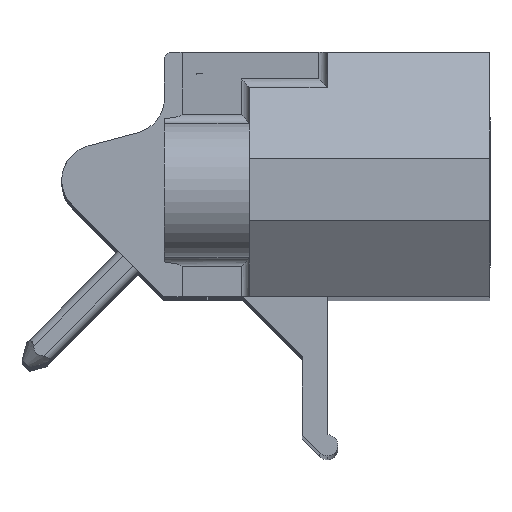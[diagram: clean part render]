
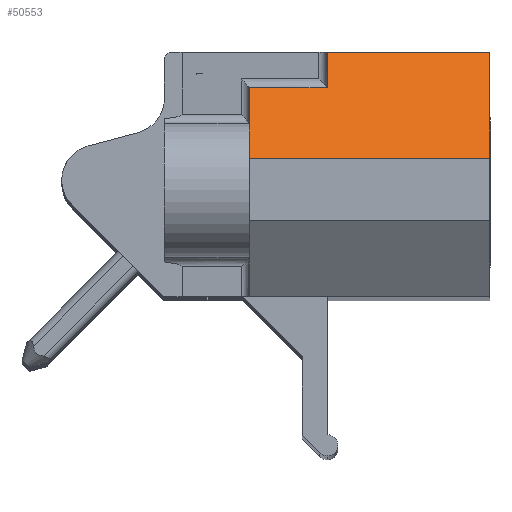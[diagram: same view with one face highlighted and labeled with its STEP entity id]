
A CAD part, top view. The second image highlights one B-rep face of the part: STEP entity #50553.
In plain terms, the highlighted planar face has unit normal (0, 0.574, 0.819).
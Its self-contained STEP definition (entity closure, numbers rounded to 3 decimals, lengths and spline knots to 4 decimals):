
#13786 = CARTESIAN_POINT ( 'NONE',  ( -10.4235, 1.156, -2.1 ) ) ;
#13851 = CARTESIAN_POINT ( 'NONE',  ( -5.8235, 1.156, -2.1 ) ) ;
#13852 = DIRECTION ( 'NONE',  ( -1., 0., 0. ) ) ;
#13853 = VECTOR ( 'NONE', #13852, 1000. ) ;
#13854 = CARTESIAN_POINT ( 'NONE',  ( -10.3235, 1.156, -2.1 ) ) ;
#13855 = LINE ( 'NONE', #13854, #13853 ) ;
#16038 = CARTESIAN_POINT ( 'NONE',  ( -5.8235, -1.8431, 0. ) ) ;
#16074 = DIRECTION ( 'NONE',  ( 0., 0.819, -0.574 ) ) ;
#16075 = VECTOR ( 'NONE', #16074, 1000. ) ;
#16076 = CARTESIAN_POINT ( 'NONE',  ( -5.8235, -1.8431, 0. ) ) ;
#16077 = LINE ( 'NONE', #16076, #16075 ) ;
#29951 = VERTEX_POINT ( 'NONE', #13786 ) ;
#30081 = EDGE_CURVE ( 'NONE', #30082, #29951, #13855, .T. ) ;
#30082 = VERTEX_POINT ( 'NONE', #13851 ) ;
#32514 = VERTEX_POINT ( 'NONE', #16038 ) ;
#32634 = EDGE_CURVE ( 'NONE', #32514, #30082, #16077, .T. ) ;
#37667 = CARTESIAN_POINT ( 'NONE',  ( -12.6235, 0.156, -1.3998 ) ) ;
#37669 = CARTESIAN_POINT ( 'NONE',  ( -10.4235, 0.156, -1.3998 ) ) ;
#37973 = DIRECTION ( 'NONE',  ( -1., 0., 0. ) ) ;
#37975 = VECTOR ( 'NONE', #37973, 1000. ) ;
#37977 = CARTESIAN_POINT ( 'NONE',  ( -9.2235, 0.156, -1.3998 ) ) ;
#37978 = LINE ( 'NONE', #37977, #37975 ) ;
#43670 = VERTEX_POINT ( 'NONE', #37669 ) ;
#43671 = VERTEX_POINT ( 'NONE', #37667 ) ;
#43794 = EDGE_CURVE ( 'NONE', #43670, #43671, #37978, .T. ) ;
#48671 = EDGE_CURVE ( 'NONE', #48714, #32514, #49054, .T. ) ;
#48714 = VERTEX_POINT ( 'NONE', #49120 ) ;
#48717 = EDGE_CURVE ( 'NONE', #43671, #48714, #49115, .T. ) ;
#49049 = DIRECTION ( 'NONE',  ( 1., 0., 0. ) ) ;
#49051 = VECTOR ( 'NONE', #49049, 1000. ) ;
#49053 = CARTESIAN_POINT ( 'NONE',  ( -9.2235, -1.8431, 0. ) ) ;
#49054 = LINE ( 'NONE', #49053, #49051 ) ;
#49111 = DIRECTION ( 'NONE',  ( 0., -0.819, 0.574 ) ) ;
#49112 = VECTOR ( 'NONE', #49111, 1000. ) ;
#49114 = CARTESIAN_POINT ( 'NONE',  ( -12.6235, -0.3436, -1.05 ) ) ;
#49115 = LINE ( 'NONE', #49114, #49112 ) ;
#49120 = CARTESIAN_POINT ( 'NONE',  ( -12.6235, -1.8431, 0. ) ) ;
#50452 = EDGE_LOOP ( 'NONE', ( #50554, #50556, #50558, #50562, #50564, #50566 ) ) ;
#50553 = ADVANCED_FACE ( 'NONE', ( #52485 ), #52482, .T. ) ;
#50554 = ORIENTED_EDGE ( 'NONE', *, *, #32634, .T. ) ;
#50556 = ORIENTED_EDGE ( 'NONE', *, *, #30081, .T. ) ;
#50558 = ORIENTED_EDGE ( 'NONE', *, *, #50560, .T. ) ;
#50560 = EDGE_CURVE ( 'NONE', #29951, #43670, #52468, .T. ) ;
#50562 = ORIENTED_EDGE ( 'NONE', *, *, #43794, .T. ) ;
#50564 = ORIENTED_EDGE ( 'NONE', *, *, #48717, .T. ) ;
#50566 = ORIENTED_EDGE ( 'NONE', *, *, #48671, .T. ) ;
#52463 = DIRECTION ( 'NONE',  ( 0., -0.819, 0.574 ) ) ;
#52465 = VECTOR ( 'NONE', #52463, 1000. ) ;
#52467 = CARTESIAN_POINT ( 'NONE',  ( -10.4235, -0.3436, -1.05 ) ) ;
#52468 = LINE ( 'NONE', #52467, #52465 ) ;
#52472 = DIRECTION ( 'NONE',  ( 0., 0.819, -0.574 ) ) ;
#52474 = DIRECTION ( 'NONE',  ( 0., 0.574, 0.819 ) ) ;
#52476 = CARTESIAN_POINT ( 'NONE',  ( -5.8235, -1.8431, 0. ) ) ;
#52478 = AXIS2_PLACEMENT_3D ( 'NONE', #52476, #52474, #52472 ) ;
#52482 = PLANE ( 'NONE',  #52478 ) ;
#52485 = FACE_OUTER_BOUND ( 'NONE', #50452, .T. ) ;
